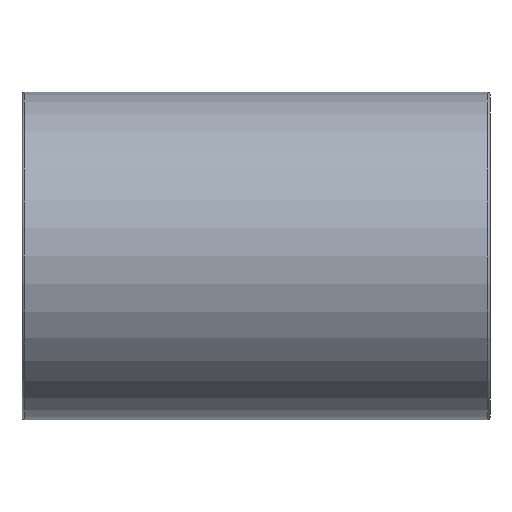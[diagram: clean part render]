
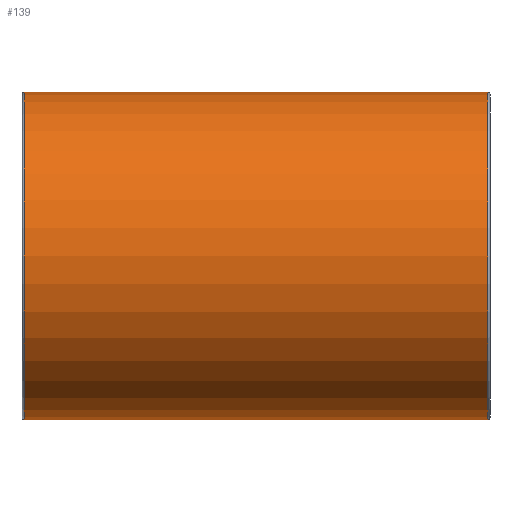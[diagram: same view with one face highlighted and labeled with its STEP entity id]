
A CAD part, front view. The second image highlights one B-rep face of the part: STEP entity #139.
In plain terms, the highlighted cylindrical face has radius 10.5 mm (diameter 21 mm), a full revolution.
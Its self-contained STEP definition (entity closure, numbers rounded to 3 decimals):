
#16=CYLINDRICAL_SURFACE('',#158,10.5);
#27=FACE_BOUND('',#56,.T.);
#39=FACE_OUTER_BOUND('',#55,.T.);
#55=EDGE_LOOP('',(#115));
#56=EDGE_LOOP('',(#116));
#75=CIRCLE('',#157,10.5);
#76=CIRCLE('',#159,10.5);
#87=VERTEX_POINT('',#236);
#88=VERTEX_POINT('',#239);
#99=EDGE_CURVE('',#87,#87,#75,.T.);
#100=EDGE_CURVE('',#88,#88,#76,.T.);
#115=ORIENTED_EDGE('',*,*,#100,.F.);
#116=ORIENTED_EDGE('',*,*,#99,.F.);
#139=ADVANCED_FACE('',(#39,#27),#16,.T.);
#157=AXIS2_PLACEMENT_3D('',#237,#191,#192);
#158=AXIS2_PLACEMENT_3D('',#238,#193,#194);
#159=AXIS2_PLACEMENT_3D('',#240,#195,#196);
#191=DIRECTION('center_axis',(-1.,0.,0.));
#192=DIRECTION('ref_axis',(0.,-1.,0.));
#193=DIRECTION('center_axis',(1.,0.,0.));
#194=DIRECTION('ref_axis',(0.,1.,0.));
#195=DIRECTION('center_axis',(1.,0.,0.));
#196=DIRECTION('ref_axis',(0.,-1.,0.));
#236=CARTESIAN_POINT('',(-14.84,10.5,0.));
#237=CARTESIAN_POINT('Origin',(-14.84,0.,0.));
#238=CARTESIAN_POINT('Origin',(0.,0.,
0.));
#239=CARTESIAN_POINT('',(14.84,10.5,0.));
#240=CARTESIAN_POINT('Origin',(14.84,0.,0.));
